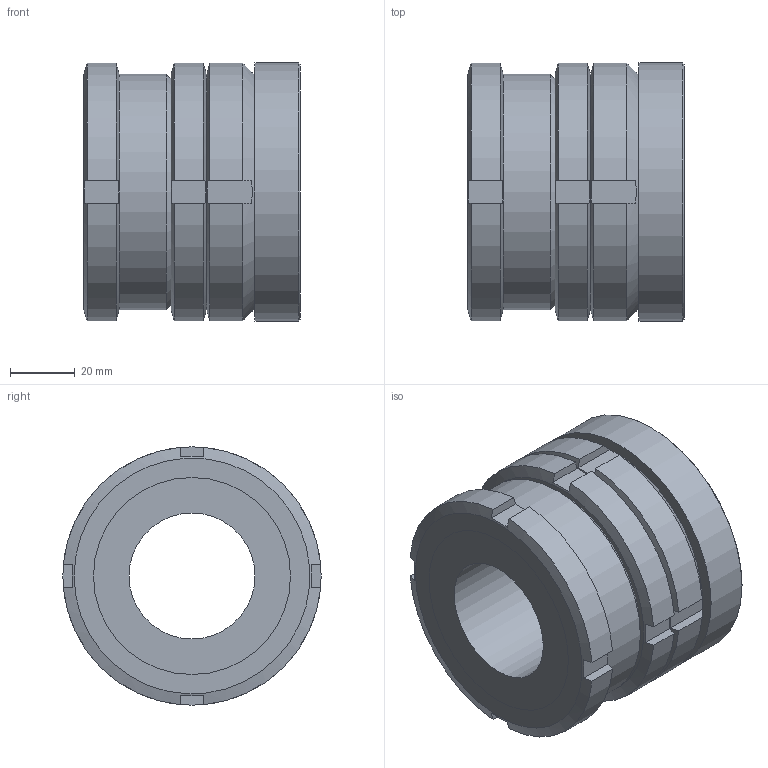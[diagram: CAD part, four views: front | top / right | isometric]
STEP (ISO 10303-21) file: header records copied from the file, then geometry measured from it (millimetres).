
FILE_DESCRIPTION( ( 'STEP AP203' ), '1' );
FILE_NAME( 'C:/Temp/Ganter_Step_05_03_2020/data/3_2/gn350_5/gn350_5_ni/Stainless Steel-Levelling set GN 350.5-80-39-67-NI (0-0).stp', '2020-03-13T05:29:01', ( 'License CC BY-ND 4.0' ), ( 'CADENAS' ), ' ', 'PARTsolutions', ' ' );
FILE_SCHEMA( ( 'CONFIG_CONTROL_DESIGN' ) );
Length unit declared in the file: millimetre
Products named in the file (5): Stainless Steel-Levelling set GN 350.5-80-39-67-NI (0-0); _Levelling set GN 350.5-80-39-67-ST-G; _Levelling set GN 350.5-80-39-67-ST-K; _Levelling set GN 350.5-80-39-67-ST-P(0); _Levelling set GN 350.5-80-39-67-ST-KM
Assembly tree (4 placements, depth 2):
  Stainless Steel-Levelling set GN 350.5-80-39-67-NI (0-0)
    _Levelling set GN 350.5-80-39-67-ST-G
    _Levelling set GN 350.5-80-39-67-ST-K
    _Levelling set GN 350.5-80-39-67-ST-P(0)
    _Levelling set GN 350.5-80-39-67-ST-KM
Bounding box: 67 x 80 x 80 mm (x, y, z)
Volume: 231390.1 mm3; surface area: 63809.4 mm2
Topology: 4 solids, 4 shells, 85 faces, 211 edges, 140 vertices
Faces by surface type: plane 50, cylinder 24, cone 9, sphere 2
Full cylindrical faces by diameter (mm): 39 x1, 48 x1, 53.529 x1, 54.5 x1, 57.835 x1, 58.917 x1, 60 x2, 61 x2, 73 x1, 80 x1
Entity records: 2696 total; most frequent: CARTESIAN_POINT 698, DIRECTION 368, ORIENTED_EDGE 356, EDGE_CURVE 178, AXIS2_PLACEMENT_3D 160, VERTEX_POINT 130, EDGE_LOOP 122, FACE_OUTER_BOUND 99
